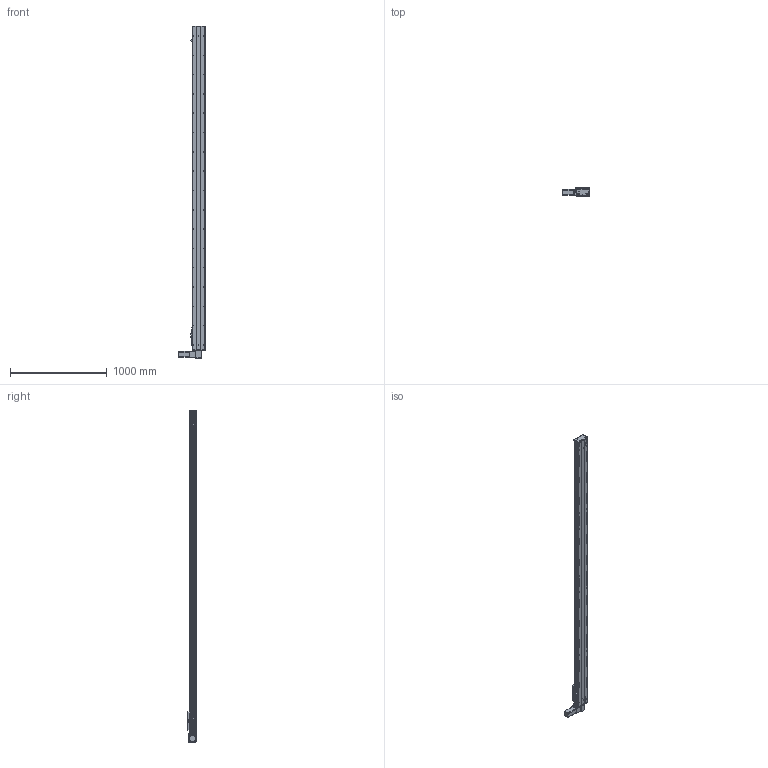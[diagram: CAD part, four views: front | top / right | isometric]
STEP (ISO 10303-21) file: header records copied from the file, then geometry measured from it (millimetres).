
FILE_DESCRIPTION (( 'STEP AP203' ), '1' );
FILE_NAME ('Y135CB-D90-S3050-BD-P400W.STEP', '2020-02-19T06:26:42', ( '微软用户' ), ( '微软中国' ), 'SwSTEP 2.0', 'SolidWorks 2017', '' );
FILE_SCHEMA (( 'CONFIG_CONTROL_DESIGN' ));
Length unit declared in the file: millimetre
Products named in the file (16): 5C--俋欶; 0B-埴倛裔啣; 0B-源倛裔啣; san松下电机400不带刹车----; C-雄赽釱--; 5CB --掛极耜裔啣-; Y10B--々湍喘謫眊--666; C-詩湍揤踡え-陔; 0B-薊粣ん眊; 135CB--詩湍-CE; Y135CB-耜裔; Y135CB-D90-S3050-BD-P400W; Y100-135俋离換覜ん--; 135CB---遴掛极.-; Y135C-陔俋离換覜結え-; 35CB---喘謫眊楊擘啣
Assembly tree (19 placements, depth 2):
  Y135CB-D90-S3050-BD-P400W
    Y135CB-耜裔
    135CB---遴掛极.-
    35CB---喘謫眊楊擘啣
    0B-埴倛裔啣
    0B-源倛裔啣
    san松下电机400不带刹车----
    5CB --掛极耜裔啣-  x2
    C-詩湍揤踡え-陔  x2
    135CB--詩湍-CE
    Y100-135俋离換覜ん--  x3
    Y135C-陔俋离換覜結え-
    5C--俋欶
    C-雄赽釱--
    Y10B--々湍喘謫眊--666
    0B-薊粣ん眊
Bounding box: 272 x 91 x 3438 mm (x, y, z)
Volume: 9710517.4 mm3; surface area: 3809642.1 mm2
Topology: 19 solids, 19 shells, 895 faces, 2446 edges, 1620 vertices
Faces by surface type: cylinder 464, plane 415, cone 16
Entity records: 28026 total; most frequent: CARTESIAN_POINT 4687, DIRECTION 4674, ORIENTED_EDGE 4368, EDGE_CURVE 2184, AXIS2_PLACEMENT_3D 1727, VERTEX_POINT 1448, VECTOR 1220, LINE 1220
